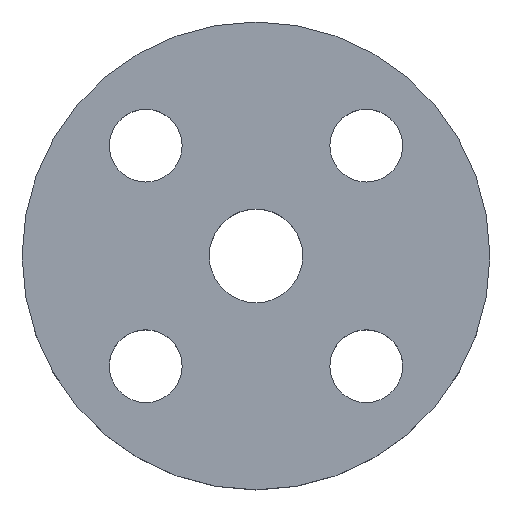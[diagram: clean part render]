
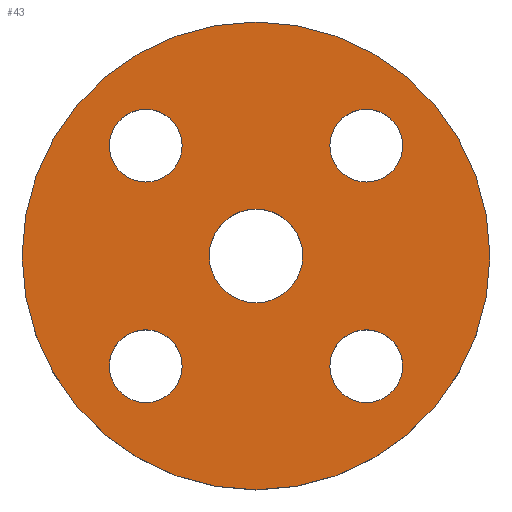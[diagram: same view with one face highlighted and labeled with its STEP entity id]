
A CAD part, top view. The second image highlights one B-rep face of the part: STEP entity #43.
In plain terms, the highlighted planar face has unit normal (0, 0, 1).
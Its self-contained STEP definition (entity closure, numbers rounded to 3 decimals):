
#2 = EDGE_CURVE ( 'NONE', #423, #433, #249, .T. ) ;
#4 = AXIS2_PLACEMENT_3D ( 'NONE', #560, #561, #562 ) ;
#5 = EDGE_CURVE ( 'NONE', #176, #167, #92, .T. ) ;
#11 = EDGE_CURVE ( 'NONE', #440, #420, #194, .T. ) ;
#15 = AXIS2_PLACEMENT_3D ( 'NONE', #531, #532, #533 ) ;
#18 = EDGE_CURVE ( 'NONE', #169, #343, #139, .T. ) ;
#27 = EDGE_CURVE ( 'NONE', #182, #205, #237, .T. ) ;
#28 = EDGE_CURVE ( 'NONE', #437, #164, #84, .T. ) ;
#33 = EDGE_CURVE ( 'NONE', #164, #437, #233, .T. ) ;
#34 = AXIS2_PLACEMENT_3D ( 'NONE', #629, #630, #631 ) ;
#43 = ADVANCED_FACE ( 'NONE', ( #520, #521, #523, #524, #525, #526 ), #527, .T. ) ;
#50 = AXIS2_PLACEMENT_3D ( 'NONE', #528, #529, #530 ) ;
#51 = CIRCLE ( 'NONE', #509, 7. ) ;
#55 = EDGE_CURVE ( 'NONE', #167, #176, #234, .T. ) ;
#56 = CIRCLE ( 'NONE', #4, 7. ) ;
#67 = CARTESIAN_POINT ( 'NONE',  ( -9., 0., 0. ) ) ;
#68 = CARTESIAN_POINT ( 'NONE',  ( -28.213, 21.213, 0. ) ) ;
#80 = AXIS2_PLACEMENT_3D ( 'NONE', #491, #492, #493 ) ;
#83 = CARTESIAN_POINT ( 'NONE',  ( 14.213, 21.213, 0. ) ) ;
#84 = CIRCLE ( 'NONE', #80, 7. ) ;
#92 = CIRCLE ( 'NONE', #307, 7. ) ;
#106 = AXIS2_PLACEMENT_3D ( 'NONE', #578, #579, #580 ) ;
#123 = EDGE_CURVE ( 'NONE', #343, #169, #56, .T. ) ;
#133 = EDGE_CURVE ( 'NONE', #433, #423, #275, .T. ) ;
#139 = CIRCLE ( 'NONE', #517, 7. ) ;
#141 = AXIS2_PLACEMENT_3D ( 'NONE', #488, #489, #490 ) ;
#156 = AXIS2_PLACEMENT_3D ( 'NONE', #501, #503, #504 ) ;
#163 = CARTESIAN_POINT ( 'NONE',  ( 21.213, 21.213, 0. ) ) ;
#164 = VERTEX_POINT ( 'NONE', #591 ) ;
#166 = DIRECTION ( 'NONE',  ( 0., 0., -1. ) ) ;
#167 = VERTEX_POINT ( 'NONE', #593 ) ;
#169 = VERTEX_POINT ( 'NONE', #594 ) ;
#173 = DIRECTION ( 'NONE',  ( -1., 0., 0. ) ) ;
#176 = VERTEX_POINT ( 'NONE', #600 ) ;
#182 = VERTEX_POINT ( 'NONE', #606 ) ;
#194 = CIRCLE ( 'NONE', #584, 7. ) ;
#205 = VERTEX_POINT ( 'NONE', #621 ) ;
#232 = EDGE_CURVE ( 'NONE', #205, #182, #410, .T. ) ;
#233 = CIRCLE ( 'NONE', #156, 7. ) ;
#234 = CIRCLE ( 'NONE', #15, 7. ) ;
#237 = CIRCLE ( 'NONE', #141, 45. ) ;
#247 = CARTESIAN_POINT ( 'NONE',  ( -28.213, -21.213, 0. ) ) ;
#248 = AXIS2_PLACEMENT_3D ( 'NONE', #447, #448, #449 ) ;
#249 = CIRCLE ( 'NONE', #248, 9. ) ;
#275 = CIRCLE ( 'NONE', #106, 9. ) ;
#293 = CARTESIAN_POINT ( 'NONE',  ( 28.213, 21.213, 0. ) ) ;
#294 = CARTESIAN_POINT ( 'NONE',  ( 9., 0., 0. ) ) ;
#307 = AXIS2_PLACEMENT_3D ( 'NONE', #453, #454, #455 ) ;
#321 = EDGE_CURVE ( 'NONE', #420, #440, #51, .T. ) ;
#339 = ORIENTED_EDGE ( 'NONE', *, *, #55, .T. ) ;
#340 = ORIENTED_EDGE ( 'NONE', *, *, #5, .T. ) ;
#341 = ORIENTED_EDGE ( 'NONE', *, *, #18, .T. ) ;
#342 = ORIENTED_EDGE ( 'NONE', *, *, #123, .T. ) ;
#343 = VERTEX_POINT ( 'NONE', #247 ) ;
#345 = ORIENTED_EDGE ( 'NONE', *, *, #33, .T. ) ;
#346 = ORIENTED_EDGE ( 'NONE', *, *, #28, .T. ) ;
#347 = ORIENTED_EDGE ( 'NONE', *, *, #321, .T. ) ;
#348 = ORIENTED_EDGE ( 'NONE', *, *, #11, .T. ) ;
#349 = ORIENTED_EDGE ( 'NONE', *, *, #2, .F. ) ;
#350 = ORIENTED_EDGE ( 'NONE', *, *, #133, .F. ) ;
#351 = ORIENTED_EDGE ( 'NONE', *, *, #232, .T. ) ;
#352 = ORIENTED_EDGE ( 'NONE', *, *, #27, .T. ) ;
#405 = EDGE_LOOP ( 'NONE', ( #349, #350 ) ) ;
#409 = EDGE_LOOP ( 'NONE', ( #347, #348 ) ) ;
#410 = CIRCLE ( 'NONE', #34, 45. ) ;
#420 = VERTEX_POINT ( 'NONE', #293 ) ;
#423 = VERTEX_POINT ( 'NONE', #294 ) ;
#424 = EDGE_LOOP ( 'NONE', ( #345, #346 ) ) ;
#433 = VERTEX_POINT ( 'NONE', #67 ) ;
#437 = VERTEX_POINT ( 'NONE', #68 ) ;
#438 = EDGE_LOOP ( 'NONE', ( #339, #340 ) ) ;
#439 = EDGE_LOOP ( 'NONE', ( #341, #342 ) ) ;
#440 = VERTEX_POINT ( 'NONE', #83 ) ;
#443 = EDGE_LOOP ( 'NONE', ( #351, #352 ) ) ;
#447 = CARTESIAN_POINT ( 'NONE',  ( 0., 0., 0. ) ) ;
#448 = DIRECTION ( 'NONE',  ( 0., 0., 1. ) ) ;
#449 = DIRECTION ( 'NONE',  ( 1., 0., 0. ) ) ;
#453 = CARTESIAN_POINT ( 'NONE',  ( 21.213, -21.213, 0. ) ) ;
#454 = DIRECTION ( 'NONE',  ( 0., 0., -1. ) ) ;
#455 = DIRECTION ( 'NONE',  ( -1., 0., 0. ) ) ;
#464 = CARTESIAN_POINT ( 'NONE',  ( 21.213, 21.213, 0. ) ) ;
#465 = DIRECTION ( 'NONE',  ( 0., 0., -1. ) ) ;
#466 = DIRECTION ( 'NONE',  ( -1., 0., 0. ) ) ;
#473 = CARTESIAN_POINT ( 'NONE',  ( -21.213, -21.213, 0. ) ) ;
#474 = DIRECTION ( 'NONE',  ( 0., 0., -1. ) ) ;
#475 = DIRECTION ( 'NONE',  ( -1., 0., 0. ) ) ;
#488 = CARTESIAN_POINT ( 'NONE',  ( 0., 0., 0. ) ) ;
#489 = DIRECTION ( 'NONE',  ( 0., 0., 1. ) ) ;
#490 = DIRECTION ( 'NONE',  ( 1., 0., 0. ) ) ;
#491 = CARTESIAN_POINT ( 'NONE',  ( -21.213, 21.213, 0. ) ) ;
#492 = DIRECTION ( 'NONE',  ( 0., 0., -1. ) ) ;
#493 = DIRECTION ( 'NONE',  ( -1., 0., 0. ) ) ;
#501 = CARTESIAN_POINT ( 'NONE',  ( -21.213, 21.213, 0. ) ) ;
#503 = DIRECTION ( 'NONE',  ( 0., 0., -1. ) ) ;
#504 = DIRECTION ( 'NONE',  ( -1., 0., 0. ) ) ;
#509 = AXIS2_PLACEMENT_3D ( 'NONE', #163, #166, #173 ) ;
#517 = AXIS2_PLACEMENT_3D ( 'NONE', #473, #474, #475 ) ;
#520 = FACE_BOUND ( 'NONE', #438, .T. ) ;
#521 = FACE_BOUND ( 'NONE', #439, .T. ) ;
#523 = FACE_BOUND ( 'NONE', #424, .T. ) ;
#524 = FACE_BOUND ( 'NONE', #409, .T. ) ;
#525 = FACE_BOUND ( 'NONE', #405, .T. ) ;
#526 = FACE_OUTER_BOUND ( 'NONE', #443, .T. ) ;
#527 = PLANE ( 'NONE',  #50 ) ;
#528 = CARTESIAN_POINT ( 'NONE',  ( 0., 0., 0. ) ) ;
#529 = DIRECTION ( 'NONE',  ( 0., 0., 1. ) ) ;
#530 = DIRECTION ( 'NONE',  ( 1., 0., 0. ) ) ;
#531 = CARTESIAN_POINT ( 'NONE',  ( 21.213, -21.213, 0. ) ) ;
#532 = DIRECTION ( 'NONE',  ( 0., 0., -1. ) ) ;
#533 = DIRECTION ( 'NONE',  ( -1., 0., 0. ) ) ;
#560 = CARTESIAN_POINT ( 'NONE',  ( -21.213, -21.213, 0. ) ) ;
#561 = DIRECTION ( 'NONE',  ( 0., 0., -1. ) ) ;
#562 = DIRECTION ( 'NONE',  ( -1., 0., 0. ) ) ;
#578 = CARTESIAN_POINT ( 'NONE',  ( 0., 0., 0. ) ) ;
#579 = DIRECTION ( 'NONE',  ( 0., 0., 1. ) ) ;
#580 = DIRECTION ( 'NONE',  ( 1., 0., 0. ) ) ;
#584 = AXIS2_PLACEMENT_3D ( 'NONE', #464, #465, #466 ) ;
#591 = CARTESIAN_POINT ( 'NONE',  ( -14.213, 21.213, 0. ) ) ;
#593 = CARTESIAN_POINT ( 'NONE',  ( 28.213, -21.213, 0. ) ) ;
#594 = CARTESIAN_POINT ( 'NONE',  ( -14.213, -21.213, 0. ) ) ;
#600 = CARTESIAN_POINT ( 'NONE',  ( 14.213, -21.213, 0. ) ) ;
#606 = CARTESIAN_POINT ( 'NONE',  ( -45., 0., 0. ) ) ;
#621 = CARTESIAN_POINT ( 'NONE',  ( 45., 0., 0. ) ) ;
#629 = CARTESIAN_POINT ( 'NONE',  ( 0., 0., 0. ) ) ;
#630 = DIRECTION ( 'NONE',  ( 0., 0., 1. ) ) ;
#631 = DIRECTION ( 'NONE',  ( 1., 0., 0. ) ) ;
